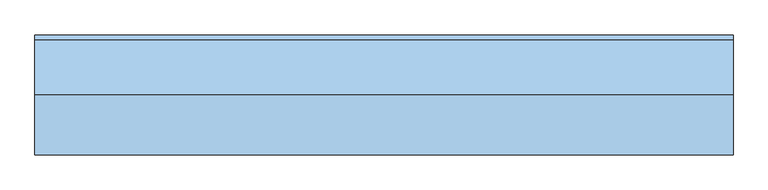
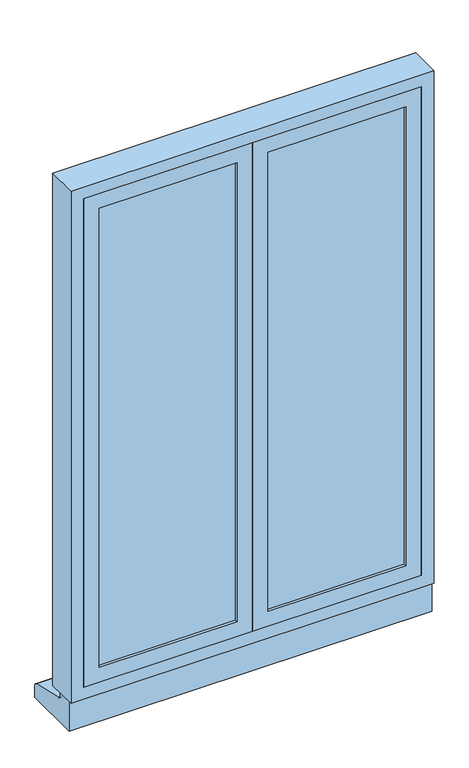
"""IFC4 building model written with IfcOpenShell, lengths in millimetres: window geometry, PF Rect. 2 vantaux : 11*170."""

from ifc_helpers import new_model, si_unit, point, frame, frame_2d, origin, place, context, project, spatial, polyline, circle_curve, trimmed, segment, composite_curve, outline, extrude, faceted_brep, source, transform, mapped, element, save


def window_04f059e1(model_context):
    return source(origin(), model_context, "Body", "SolidModel", [
        faceted_brep([(580.0, -75.0, 1830.0), (-580.0, -75.0, 1830.0), (-580.0, -75.0, 100.0), (580.0, -75.0, 100.0), (540.0, -75.0, 1790.0), (540.0, -75.0, 140.0), (-540.0, -75.0, 140.0), (-540.0, -75.0, 1790.0), (540.0, 25.0, 100.0), (540.0, 25.0, 1790.0), (-540.0, 25.0, 1790.0), (-540.0, 25.0, 100.0), (-580.0, 25.0, 100.0), (-580.0, 25.0, 1830.0), (580.0, 25.0, 1830.0), (580.0, 25.0, 100.0), (-540.0, -5.0, 100.0), (540.0, -5.0, 100.0), (-540.0, -5.0, 140.0), (540.0, -5.0, 140.0)], [[[0, 1, 2, 3], [4, 5, 6, 7]], [[8, 9, 10, 11, 12, 13, 14, 15]], [[3, 2, 12, 11, 16, 17, 8, 15]], [[3, 15, 14, 0]], [[1, 0, 14, 13]], [[13, 12, 2, 1]], [[11, 10, 7, 6, 18, 16]], [[4, 7, 10, 9]], [[9, 8, 17, 19, 5, 4]], [[6, 5, 19, 18]], [[17, 16, 18, 19]]]),
        extrude(outline(composite_curve([segment(polyline([(-65.0, 100.0), (-15.0, 100.0), (-15.0, 88.9908961)]), True, "CONTINUOUS"), segment(trimmed(circle_curve(frame_2d((-5.0, 88.9908961)), 10.0), [point((-15.0, 88.9908961))], [point((-6.0597318, 79.0472062))], True, "CARTESIAN"), True, "CONTINUOUS"), segment(polyline([(-6.0597318, 79.0472062), (116.0597318, 50.0465391)]), True, "CONTINUOUS"), segment(trimmed(circle_curve(frame_2d((115.0, 40.1028492)), 10.0), [point((116.0597318, 50.0465391))], [point((125.0, 40.1028492))], False, "CARTESIAN"), True, "CONTINUOUS"), segment(polyline([(125.0, 40.1028492), (125.0, 0.0), (-65.0, 0.0), (-65.0, 100.0)]), True, "CONTINUOUS")], self_intersect=False)), frame((-580.0, 0.0, 0.0), z_axis=(1.0, 0.0, 0.0), x_axis=(0.0, 1.0, 0.0)), (0.0, 0.0, 1.0), 1160.0),
        extrude(outline(polyline([(-50.0, -65.0), (-490.0, -65.0), (-490.0, -45.0), (-50.0, -45.0), (-50.0, -65.0)])), frame((0.0, 0.0, 190.0), z_axis=(0.0, 0.0, 1.0), x_axis=(1.0, 0.0, 0.0)), (0.0, 0.0, 1.0), 1550.0),
        extrude(outline(polyline([(490.0, -65.0), (50.0, -65.0), (50.0, -45.0), (490.0, -45.0), (490.0, -65.0)])), frame((0.0, 0.0, 190.0), z_axis=(0.0, 0.0, 1.0), x_axis=(1.0, 0.0, 0.0)), (0.0, 0.0, 1.0), 1550.0),
        extrude(outline(polyline([(1790.0, 540.0), (1790.0, 0.0), (140.0, 0.0), (140.0, 540.0), (1790.0, 540.0)]), holes=[polyline([(1740.0, 490.0), (190.0, 490.0), (190.0, 50.0), (1740.0, 50.0), (1740.0, 490.0)])]), frame((0.0, -75.0, 0.0), z_axis=(0.0, 1.0, 0.0), x_axis=(0.0, 0.0, 1.0)), (0.0, 0.0, 1.0), 50.0),
        extrude(outline(polyline([(1790.0, 0.0), (1790.0, -540.0), (140.0, -540.0), (140.0, 0.0), (1790.0, 0.0)]), holes=[polyline([(1740.0, -50.0), (190.0, -50.0), (190.0, -490.0), (1740.0, -490.0), (1740.0, -50.0)])]), frame((0.0, -75.0, 0.0), z_axis=(0.0, 1.0, 0.0), x_axis=(0.0, 0.0, 1.0)), (0.0, 0.0, 1.0), 50.0),
    ])


if __name__ == "__main__":
    model = new_model("IFC4")
    model_context = context("Model", 3, world=origin())
    ifc_project = project(units=[si_unit("LENGTHUNIT", "METRE", prefix="MILLI")], contexts=[model_context])
    site = spatial("IfcSite", under=ifc_project)
    building = spatial("IfcBuilding", under=site)
    placement = place(None, origin())
    window_shape = window_04f059e1(model_context)
    element("IfcWindow", 1, ObjectType="PF Rect. 2 vantaux : 11*170", at=placement, inside=building, context=model_context, shape_type="MappedRepresentation", body=[
        mapped(window_shape, transform((0.0, 0.0, 0.0), x_axis=(1.0, 0.0, 0.0), y_axis=(0.0, 1.0, 0.0), z_axis=(0.0, 0.0, 1.0))),
    ])
    save(model, "model.ifc")
